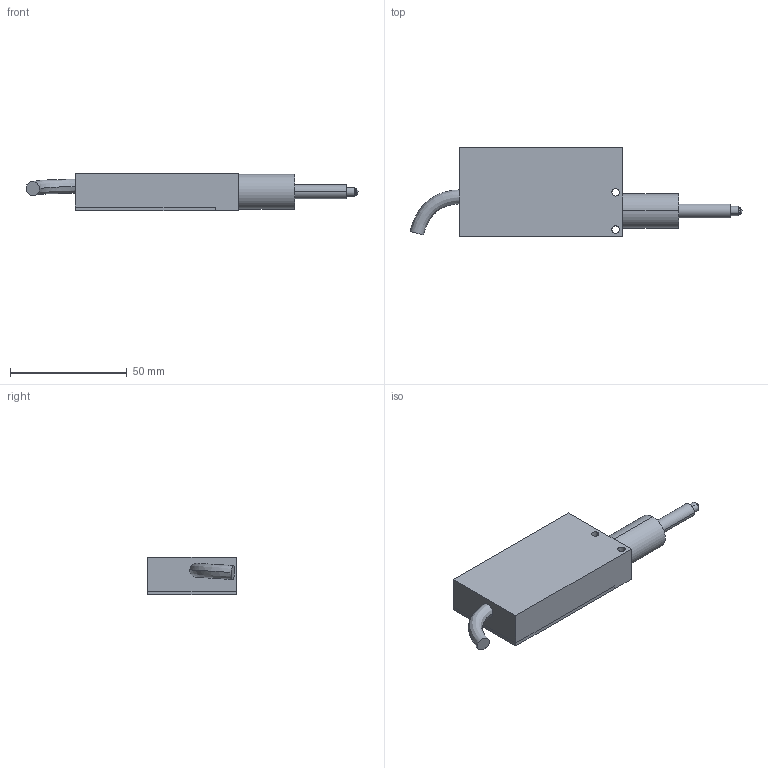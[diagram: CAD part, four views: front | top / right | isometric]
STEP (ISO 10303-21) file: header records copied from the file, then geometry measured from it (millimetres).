
FILE_DESCRIPTION (( 'STEP AP214' ), '1' );
FILE_NAME ('MLG112.STEP', '2022-05-23T14:22:09', ( '' ), ( '' ), 'SwSTEP 2.0', 'SolidWorks 2014', '' );
FILE_SCHEMA (( 'AUTOMOTIVE_DESIGN' ));
Length unit declared in the file: millimetre
Products named in the file (1): MLG112
Bounding box: 142.44 x 38 x 15.9 mm (x, y, z)
Surface area: 14470.2 mm2 (no closed solid volume)
Topology: 0 solids, 11 shells, 163 faces, 739 edges, 607 vertices
Faces by surface type: plane 121, cone 22, cylinder 14, torus 2, sphere 2, bspline 2
Entity records: 11645 total; most frequent: CARTESIAN_POINT 4080, ORIENTED_EDGE 1344, DIRECTION 922, EDGE_CURVE 731, VERTEX_POINT 607, LINE 342, VECTOR 342, AXIS2_PLACEMENT_3D 290
